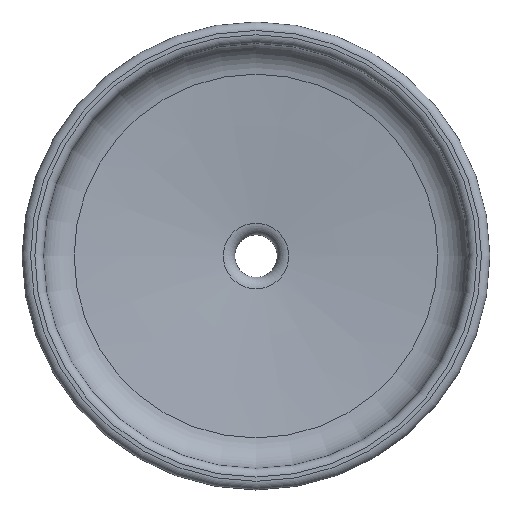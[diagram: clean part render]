
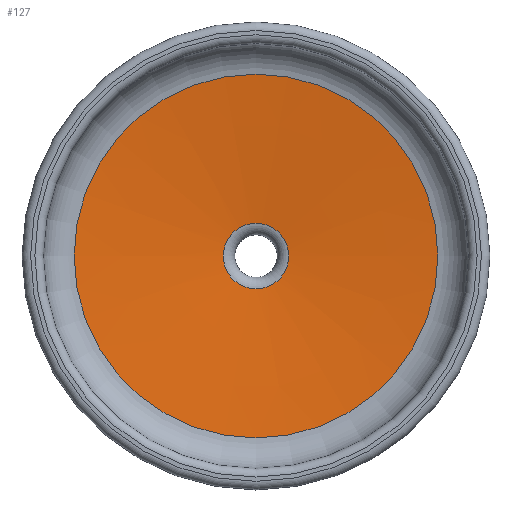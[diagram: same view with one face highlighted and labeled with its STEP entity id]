
A CAD part, top view. The second image highlights one B-rep face of the part: STEP entity #127.
In plain terms, the highlighted conical face has half-angle 84.289 degrees and reference radius 42.769 mm.
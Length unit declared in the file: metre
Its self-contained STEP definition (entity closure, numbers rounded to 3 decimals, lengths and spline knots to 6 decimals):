
#12=CONICAL_SURFACE('',#160,0.042769,1.471);
#31=ORIENTED_EDGE('',*,*,#52,.T.);
#32=ORIENTED_EDGE('',*,*,#51,.F.);
#51=EDGE_CURVE('',#62,#62,#73,.T.);
#52=EDGE_CURVE('',#63,#63,#74,.F.);
#62=VERTEX_POINT('',#237);
#63=VERTEX_POINT('',#240);
#73=CIRCLE('',#159,0.042769);
#74=CIRCLE('',#161,0.007701);
#86=EDGE_LOOP('',(#31));
#87=EDGE_LOOP('',(#32));
#108=FACE_BOUND('',#86,.T.);
#109=FACE_BOUND('',#87,.T.);
#127=ADVANCED_FACE('',(#108,#109),#12,.F.);
#159=AXIS2_PLACEMENT_3D('',#236,#196,#197);
#160=AXIS2_PLACEMENT_3D('',#238,#198,#199);
#161=AXIS2_PLACEMENT_3D('',#239,#200,#201);
#196=DIRECTION('',(0.,0.,-1.));
#197=DIRECTION('',(-1.,0.,0.));
#198=DIRECTION('',(0.,0.,1.));
#199=DIRECTION('',(1.,0.,0.));
#200=DIRECTION('',(0.,0.,1.));
#201=DIRECTION('',(1.,0.,0.));
#236=CARTESIAN_POINT('',(0.509256,0.016502,0.071905));
#237=CARTESIAN_POINT('',(0.466486,0.016502,0.071905));
#238=CARTESIAN_POINT('',(0.509256,0.016502,0.071905));
#239=CARTESIAN_POINT('',(0.509256,0.016502,0.068398));
#240=CARTESIAN_POINT('',(0.516957,0.016502,0.068398));
